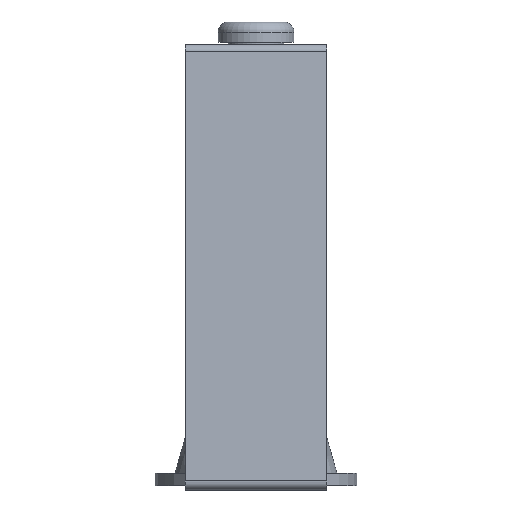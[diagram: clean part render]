
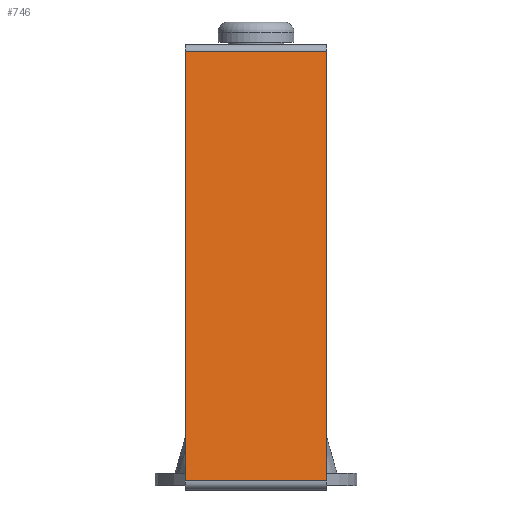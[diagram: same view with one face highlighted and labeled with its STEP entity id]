
A CAD part, front view. The second image highlights one B-rep face of the part: STEP entity #746.
In plain terms, the highlighted planar face has unit normal (0, -0.995, 0.101) as drawn and (0.995, 0.101, 0) by its records, which use the part's own axes.
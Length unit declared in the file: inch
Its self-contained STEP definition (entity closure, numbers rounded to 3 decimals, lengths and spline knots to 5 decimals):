
#325=CARTESIAN_POINT('',(1.14897,4.95585,-0.875));
#326=VERTEX_POINT('',#325);
#334=CARTESIAN_POINT('',(1.685,-0.34415,-0.875));
#335=VERTEX_POINT('',#334);
#336=CARTESIAN_POINT('',(1.685,-0.34415,-0.875));
#337=DIRECTION('',(-0.101,0.995,0.0));
#338=VECTOR('',#337,5.32704);
#339=LINE('',#336,#338);
#340=EDGE_CURVE('',#335,#326,#339,.T.);
#703=CARTESIAN_POINT('',(1.14897,4.95585,0.875));
#704=VERTEX_POINT('',#703);
#712=CARTESIAN_POINT('',(1.14897,4.95585,-0.875));
#713=DIRECTION('',(0.0,0.0,1.0));
#714=VECTOR('',#713,1.75);
#715=LINE('',#712,#714);
#716=EDGE_CURVE('',#326,#704,#715,.T.);
#723=CARTESIAN_POINT('',(1.14897,4.95585,0.0));
#724=DIRECTION('',(0.995,0.101,0.0));
#725=DIRECTION('',(0.0,0.0,-1.0));
#726=AXIS2_PLACEMENT_3D('',#723,#724,#725);
#727=PLANE('',#726);
#728=CARTESIAN_POINT('',(1.685,-0.34415,0.875));
#729=VERTEX_POINT('',#728);
#730=CARTESIAN_POINT('',(1.14897,4.95585,0.875));
#731=DIRECTION('',(0.101,-0.995,0.0));
#732=VECTOR('',#731,5.32704);
#733=LINE('',#730,#732);
#734=EDGE_CURVE('',#704,#729,#733,.T.);
#735=ORIENTED_EDGE('',*,*,#734,.T.);
#736=CARTESIAN_POINT('',(1.685,-0.34415,-0.875));
#737=DIRECTION('',(0.0,0.0,1.0));
#738=VECTOR('',#737,1.75);
#739=LINE('',#736,#738);
#740=EDGE_CURVE('',#335,#729,#739,.T.);
#741=ORIENTED_EDGE('',*,*,#740,.F.);
#742=ORIENTED_EDGE('',*,*,#340,.T.);
#743=ORIENTED_EDGE('',*,*,#716,.T.);
#744=EDGE_LOOP('',(#735,#741,#742,#743));
#745=FACE_OUTER_BOUND('',#744,.T.);
#746=ADVANCED_FACE('',(#745),#727,.T.);
